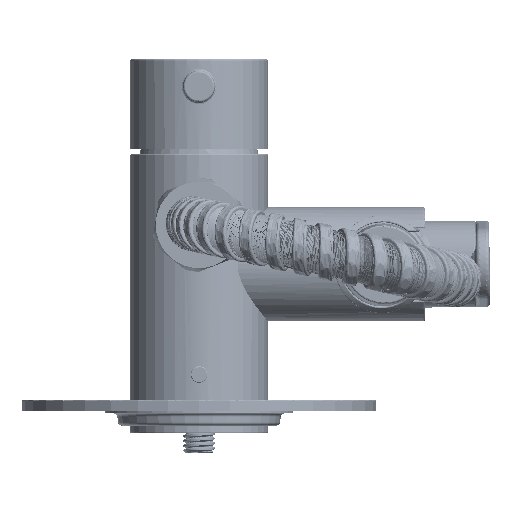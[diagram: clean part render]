
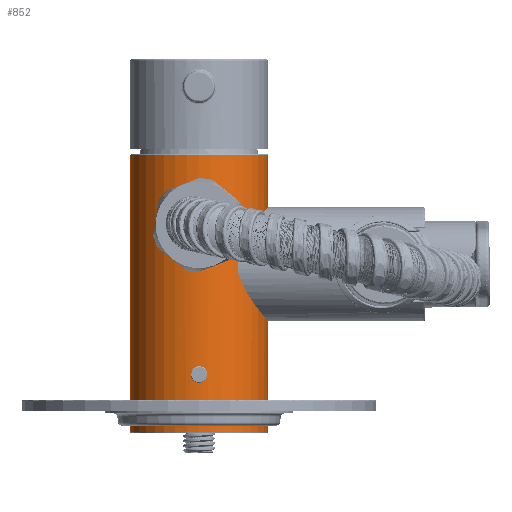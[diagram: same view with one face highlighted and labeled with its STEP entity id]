
A CAD part, front view. The second image highlights one B-rep face of the part: STEP entity #852.
In plain terms, the highlighted cylindrical face has radius 17.5 mm (diameter 35 mm), a partial arc.
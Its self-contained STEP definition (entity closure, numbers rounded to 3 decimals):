
#63=CARTESIAN_POINT('',(0.,0.3,0.));
#64=DIRECTION('',(0.,1.,0.));
#65=DIRECTION('',(-1.,0.,0.));
#66=AXIS2_PLACEMENT_3D('',#63,#64,#65);
#68=CARTESIAN_POINT('',(0.,0.3,0.));
#69=DIRECTION('',(0.,1.,0.));
#70=DIRECTION('',(1.,0.,0.008));
#71=AXIS2_PLACEMENT_3D('',#68,#69,#70);
#83=DIRECTION('',(0.,-1.,0.));
#84=VECTOR('',#83,22.65);
#85=CARTESIAN_POINT('',(17.5,70.7,0.));
#86=LINE('',#85,#84);
#87=CARTESIAN_POINT('',(17.5,48.05,0.));
#88=CARTESIAN_POINT('',(17.5,48.05,0.334));
#89=CARTESIAN_POINT('',(17.482,47.987,1.005));
#90=CARTESIAN_POINT('',(17.387,47.649,2.076));
#91=CARTESIAN_POINT('',(17.245,47.097,3.018));
#92=CARTESIAN_POINT('',(17.084,46.365,3.815));
#93=CARTESIAN_POINT('',(16.935,45.514,4.422));
#94=CARTESIAN_POINT('',(16.816,44.536,4.849));
#95=CARTESIAN_POINT('',(16.753,43.505,5.059));
#96=CARTESIAN_POINT('',(16.752,42.507,5.06));
#97=CARTESIAN_POINT('',(16.815,41.477,4.853));
#98=CARTESIAN_POINT('',(16.933,40.498,4.429));
#99=CARTESIAN_POINT('',(17.081,39.654,3.831));
#100=CARTESIAN_POINT('',(17.243,38.911,3.03));
#101=CARTESIAN_POINT('',(17.387,38.349,2.075));
#102=CARTESIAN_POINT('',(17.483,38.009,0.99));
#103=CARTESIAN_POINT('',(17.5,37.95,0.327));
#104=CARTESIAN_POINT('',(17.5,37.95,0.));
#106=DIRECTION('',(0.,-1.,0.));
#107=VECTOR('',#106,37.65);
#108=CARTESIAN_POINT('',(17.5,37.95,0.));
#109=LINE('',#108,#107);
#110=CARTESIAN_POINT('',(0.,17.1,17.5));
#111=CARTESIAN_POINT('',(-0.185,17.1,17.5));
#112=CARTESIAN_POINT('',(-0.542,17.053,17.494));
#113=CARTESIAN_POINT('',(-1.061,16.841,17.47));
#114=CARTESIAN_POINT('',(-1.491,16.51,17.438));
#115=CARTESIAN_POINT('',(-1.828,16.083,17.405));
#116=CARTESIAN_POINT('',(-2.047,15.566,17.38));
#117=CARTESIAN_POINT('',(-2.126,15.008,17.37));
#118=CARTESIAN_POINT('',(-2.051,14.455,17.379));
#119=CARTESIAN_POINT('',(-1.848,13.952,17.403));
#120=CARTESIAN_POINT('',(-1.513,13.51,17.436));
#121=CARTESIAN_POINT('',(-1.077,13.167,17.469));
#122=CARTESIAN_POINT('',(-0.543,12.946,17.494));
#123=CARTESIAN_POINT('',(-0.185,12.9,17.5));
#124=CARTESIAN_POINT('',(0.,12.9,17.5));
#126=CARTESIAN_POINT('',(0.,12.9,17.5));
#127=CARTESIAN_POINT('',(0.185,12.9,17.5));
#128=CARTESIAN_POINT('',(0.542,12.947,17.494));
#129=CARTESIAN_POINT('',(1.061,13.159,17.47));
#130=CARTESIAN_POINT('',(1.491,13.49,17.438));
#131=CARTESIAN_POINT('',(1.828,13.917,17.405));
#132=CARTESIAN_POINT('',(2.047,14.434,17.38));
#133=CARTESIAN_POINT('',(2.126,14.992,17.37));
#134=CARTESIAN_POINT('',(2.051,15.545,17.379));
#135=CARTESIAN_POINT('',(1.848,16.048,17.403));
#136=CARTESIAN_POINT('',(1.513,16.49,17.436));
#137=CARTESIAN_POINT('',(1.077,16.833,17.469));
#138=CARTESIAN_POINT('',(0.543,17.054,17.494));
#139=CARTESIAN_POINT('',(0.185,17.1,17.5));
#140=CARTESIAN_POINT('',(0.,17.1,17.5));
#142=CARTESIAN_POINT('',(0.,48.,17.5));
#143=CARTESIAN_POINT('',(0.282,48.,17.5));
#144=CARTESIAN_POINT('',(0.845,48.056,17.487));
#145=CARTESIAN_POINT('',(1.753,48.363,17.419));
#146=CARTESIAN_POINT('',(2.523,48.852,17.322));
#147=CARTESIAN_POINT('',(3.164,49.5,17.215));
#148=CARTESIAN_POINT('',(3.627,50.235,17.121));
#149=CARTESIAN_POINT('',(3.935,51.111,17.052));
#150=CARTESIAN_POINT('',(4.03,51.979,17.03));
#151=CARTESIAN_POINT('',(3.946,52.833,17.05));
#152=CARTESIAN_POINT('',(3.648,53.726,17.117));
#153=CARTESIAN_POINT('',(3.18,54.482,17.212));
#154=CARTESIAN_POINT('',(2.529,55.144,17.321));
#155=CARTESIAN_POINT('',(1.75,55.639,17.42));
#156=CARTESIAN_POINT('',(0.837,55.946,17.488));
#157=CARTESIAN_POINT('',(0.278,56.,17.5));
#158=CARTESIAN_POINT('',(0.,56.,17.5));
#160=CARTESIAN_POINT('',(0.,56.,17.5));
#161=CARTESIAN_POINT('',(-0.282,56.,17.5));
#162=CARTESIAN_POINT('',(-0.845,55.944,17.487));
#163=CARTESIAN_POINT('',(-1.753,55.637,17.419));
#164=CARTESIAN_POINT('',(-2.523,55.148,17.322));
#165=CARTESIAN_POINT('',(-3.164,54.5,17.215));
#166=CARTESIAN_POINT('',(-3.627,53.765,17.121));
#167=CARTESIAN_POINT('',(-3.935,52.889,17.052));
#168=CARTESIAN_POINT('',(-4.03,52.021,17.03));
#169=CARTESIAN_POINT('',(-3.946,51.167,17.05));
#170=CARTESIAN_POINT('',(-3.648,50.274,17.117));
#171=CARTESIAN_POINT('',(-3.18,49.518,17.212));
#172=CARTESIAN_POINT('',(-2.529,48.856,17.321));
#173=CARTESIAN_POINT('',(-1.75,48.361,17.42));
#174=CARTESIAN_POINT('',(-0.837,48.054,17.488));
#175=CARTESIAN_POINT('',(-0.278,48.,17.5));
#176=CARTESIAN_POINT('',(0.,48.,17.5));
#197=DIRECTION('',(0.,-1.,0.));
#198=VECTOR('',#197,70.4);
#199=CARTESIAN_POINT('',(-17.5,70.7,0.));
#200=LINE('',#199,#198);
#294=CARTESIAN_POINT('',(0.,70.7,0.));
#295=DIRECTION('',(0.,-1.,0.));
#296=DIRECTION('',(1.,0.,0.));
#297=AXIS2_PLACEMENT_3D('',#294,#295,#296);
#299=CARTESIAN_POINT('',(0.,70.7,0.));
#300=DIRECTION('',(0.,-1.,0.));
#301=DIRECTION('',(1.,0.,0.008));
#302=AXIS2_PLACEMENT_3D('',#299,#300,#301);
#711=CARTESIAN_POINT('',(0.,12.9,17.5));
#712=VERTEX_POINT('',#711);
#713=VERTEX_POINT('',#110);
#714=CARTESIAN_POINT('',(-17.5,0.3,0.));
#715=CARTESIAN_POINT('',(17.499,0.3,0.139));
#716=VERTEX_POINT('',#714);
#717=VERTEX_POINT('',#715);
#718=CARTESIAN_POINT('',(17.5,0.3,0.));
#719=VERTEX_POINT('',#718);
#720=CARTESIAN_POINT('',(-17.5,70.7,0.));
#721=VERTEX_POINT('',#720);
#722=CARTESIAN_POINT('',(17.499,70.7,0.133));
#723=VERTEX_POINT('',#722);
#724=CARTESIAN_POINT('',(17.5,70.7,0.));
#725=VERTEX_POINT('',#724);
#726=CARTESIAN_POINT('',(17.5,48.05,0.));
#727=VERTEX_POINT('',#726);
#728=VERTEX_POINT('',#104);
#729=VERTEX_POINT('',#142);
#730=VERTEX_POINT('',#158);
#819=CARTESIAN_POINT('',(0.,-3.55,0.));
#820=DIRECTION('',(0.,1.,0.));
#821=DIRECTION('',(1.,0.,0.));
#822=AXIS2_PLACEMENT_3D('',#819,#820,#821);
#823=CYLINDRICAL_SURFACE('',#822,17.5);
#824=ORIENTED_EDGE('',*,*,#808,.F.);
#825=ORIENTED_EDGE('',*,*,#806,.F.);
#827=ORIENTED_EDGE('',*,*,#826,.F.);
#829=ORIENTED_EDGE('',*,*,#828,.F.);
#831=ORIENTED_EDGE('',*,*,#830,.F.);
#833=ORIENTED_EDGE('',*,*,#832,.T.);
#835=ORIENTED_EDGE('',*,*,#834,.T.);
#837=ORIENTED_EDGE('',*,*,#836,.T.);
#838=EDGE_LOOP('',(#824,#825,#827,#829,#831,#833,#835,#837));
#839=FACE_OUTER_BOUND('',#838,.F.);
#841=ORIENTED_EDGE('',*,*,#840,.T.);
#843=ORIENTED_EDGE('',*,*,#842,.T.);
#844=EDGE_LOOP('',(#841,#843));
#845=FACE_BOUND('',#844,.F.);
#847=ORIENTED_EDGE('',*,*,#846,.T.);
#849=ORIENTED_EDGE('',*,*,#848,.T.);
#850=EDGE_LOOP('',(#847,#849));
#851=FACE_BOUND('',#850,.F.);
#67=CIRCLE('',#66,17.5);
#72=CIRCLE('',#71,17.5);
#105=B_SPLINE_CURVE_WITH_KNOTS('',3,(#87,#88,#89,#90,#91,#92,#93,#94,#95,#96,
#97,#98,#99,#100,#101,#102,#103,#104),.UNSPECIFIED.,.F.,.F.,(4,1,1,1,1,1,1,1,1,
1,1,1,1,1,1,4),(0.,0.067,0.133,0.2,
0.267,0.333,0.4,0.467,0.533,
0.6,0.667,0.733,0.8,0.867,
0.933,1.),.UNSPECIFIED.);
#125=B_SPLINE_CURVE_WITH_KNOTS('',3,(#110,#111,#112,#113,#114,#115,#116,#117,
#118,#119,#120,#121,#122,#123,#124),.UNSPECIFIED.,.F.,.F.,(4,1,1,1,1,1,1,1,1,1,
1,1,4),(0.,0.083,0.167,0.25,0.333,
0.417,0.5,0.583,0.667,0.75,
0.833,0.917,1.),.UNSPECIFIED.);
#141=B_SPLINE_CURVE_WITH_KNOTS('',3,(#126,#127,#128,#129,#130,#131,#132,#133,
#134,#135,#136,#137,#138,#139,#140),.UNSPECIFIED.,.F.,.F.,(4,1,1,1,1,1,1,1,1,1,
1,1,4),(0.,0.083,0.167,0.25,0.333,
0.417,0.5,0.583,0.667,0.75,
0.833,0.917,1.),.UNSPECIFIED.);
#159=B_SPLINE_CURVE_WITH_KNOTS('',3,(#142,#143,#144,#145,#146,#147,#148,#149,
#150,#151,#152,#153,#154,#155,#156,#157,#158),.UNSPECIFIED.,.F.,.F.,(4,1,1,1,1,
1,1,1,1,1,1,1,1,1,4),(0.,0.071,0.143,
0.214,0.286,0.357,0.429,0.5,
0.571,0.643,0.714,0.786,
0.857,0.929,1.),.UNSPECIFIED.);
#177=B_SPLINE_CURVE_WITH_KNOTS('',3,(#160,#161,#162,#163,#164,#165,#166,#167,
#168,#169,#170,#171,#172,#173,#174,#175,#176),.UNSPECIFIED.,.F.,.F.,(4,1,1,1,1,
1,1,1,1,1,1,1,1,1,4),(0.,0.071,0.143,
0.214,0.286,0.357,0.429,0.5,
0.571,0.643,0.714,0.786,
0.857,0.929,1.),.UNSPECIFIED.);
#298=CIRCLE('',#297,17.5);
#303=CIRCLE('',#302,17.5);
#806=EDGE_CURVE('',#716,#717,#67,.T.);
#808=EDGE_CURVE('',#717,#719,#72,.T.);
#826=EDGE_CURVE('',#721,#716,#200,.T.);
#828=EDGE_CURVE('',#723,#721,#303,.T.);
#830=EDGE_CURVE('',#725,#723,#298,.T.);
#832=EDGE_CURVE('',#725,#727,#86,.T.);
#834=EDGE_CURVE('',#727,#728,#105,.T.);
#836=EDGE_CURVE('',#728,#719,#109,.T.);
#840=EDGE_CURVE('',#713,#712,#125,.T.);
#842=EDGE_CURVE('',#712,#713,#141,.T.);
#846=EDGE_CURVE('',#729,#730,#159,.T.);
#848=EDGE_CURVE('',#730,#729,#177,.T.);
#852=ADVANCED_FACE('',(#839,#845,#851),#823,.T.);
